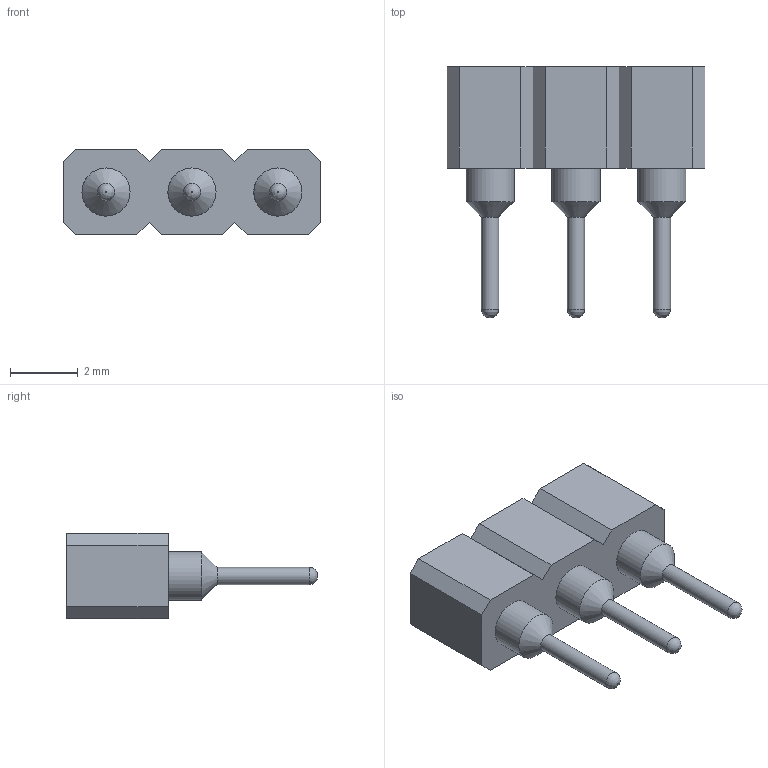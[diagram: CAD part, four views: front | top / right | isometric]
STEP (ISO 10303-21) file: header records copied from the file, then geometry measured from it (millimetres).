
FILE_DESCRIPTION(/* description */ (''),/* implementation_level */ '2;1');
FILE_NAME(/* name */ 'Header Female 1x3 v3.step',/* time_stamp */ '2024-11-11T13:55:03+01:00',/* author */ (''),/* organization */ (''),/* preprocessor_version */ 'ST-DEVELOPER v20',/* originating_system */ 'Autodesk Translation Framework v13.20.0.188',/* authorisation */ '');
FILE_SCHEMA (('AUTOMOTIVE_DESIGN { 1 0 10303 214 3 1 1 }'));
Length unit declared in the file: millimetre
Products named in the file (3): Header Female 1x3; Pin; Plastic
Assembly tree (2 placements, depth 2):
  Header Female 1x3
    Pin
    Plastic
Bounding box: 7.62 x 7.43 x 2.54 mm (x, y, z)
Volume: 56 mm3; surface area: 245.2 mm2
Topology: 4 solids, 4 shells, 55 faces, 120 edges, 76 vertices
Faces by surface type: plane 31, cylinder 12, cone 9, bspline 3
Full cylindrical faces by diameter (mm): 0.51 x3, 0.9 x3, 1.42 x6
Entity records: 1672 total; most frequent: CARTESIAN_POINT 334, DIRECTION 273, ORIENTED_EDGE 240, EDGE_CURVE 120, AXIS2_PLACEMENT_3D 96, LINE 81, VECTOR 81, VERTEX_POINT 76
